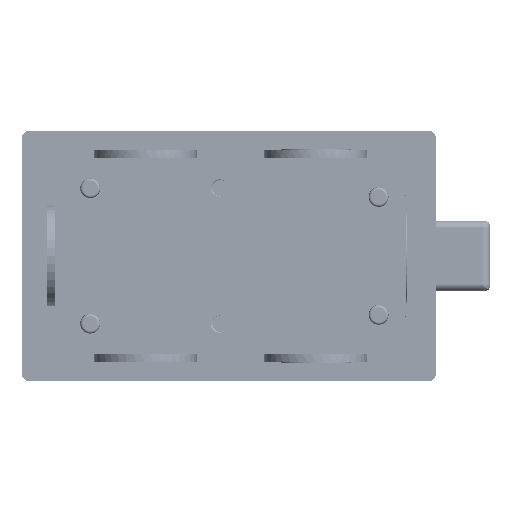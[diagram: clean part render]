
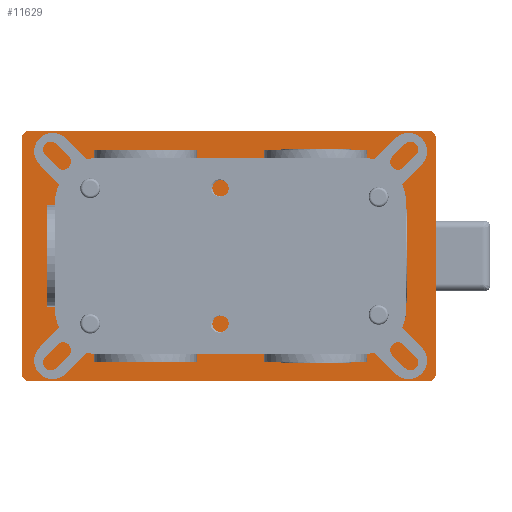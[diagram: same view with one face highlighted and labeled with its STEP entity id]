
A CAD part, front view. The second image highlights one B-rep face of the part: STEP entity #11629.
In plain terms, the highlighted planar face has unit normal (0, -1, 0) as drawn and (0, 0, 1) by its records, which use the part's own axes.
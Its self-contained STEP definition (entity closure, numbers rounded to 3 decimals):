
#2753 = CARTESIAN_POINT ( 'NONE',  ( -50., 78.183, 2. ) ) ;
#2901 = DIRECTION ( 'NONE',  ( 0., 0., 1. ) ) ;
#2945 = CARTESIAN_POINT ( 'NONE',  ( 50., -83.817, 2. ) ) ;
#3214 = CARTESIAN_POINT ( 'NONE',  ( 50., 81.183, 2. ) ) ;
#3555 = EDGE_CURVE ( 'NONE', #23483, #52671, #123051, .T. ) ;
#7489 = DIRECTION ( 'NONE',  ( 1., 0., 0. ) ) ;
#8327 = AXIS2_PLACEMENT_3D ( 'NONE', #77723, #118356, #67120 ) ;
#8695 = AXIS2_PLACEMENT_3D ( 'NONE', #38478, #89733, #58500 ) ;
#10045 = VERTEX_POINT ( 'NONE', #108606 ) ;
#11629 = ADVANCED_FACE ( 'NONE', ( #38393, #120277, #19734 ), #131559, .T. ) ;
#11991 = VERTEX_POINT ( 'NONE', #62987 ) ;
#12413 = ORIENTED_EDGE ( 'NONE', *, *, #63759, .T. ) ;
#13728 = ORIENTED_EDGE ( 'NONE', *, *, #40284, .T. ) ;
#14195 = VECTOR ( 'NONE', #90500, 1000. ) ;
#16401 = DIRECTION ( 'NONE',  ( 0., 0., 1. ) ) ;
#17866 = LINE ( 'NONE', #69790, #20993 ) ;
#18579 = DIRECTION ( 'NONE',  ( 0., 0., 1. ) ) ;
#18831 = EDGE_CURVE ( 'NONE', #89231, #24230, #52500, .T. ) ;
#19510 = CARTESIAN_POINT ( 'NONE',  ( 47., 78.183, 2. ) ) ;
#19734 = FACE_BOUND ( 'NONE', #33421, .T. ) ;
#20993 = VECTOR ( 'NONE', #79092, 1000. ) ;
#23483 = VERTEX_POINT ( 'NONE', #128816 ) ;
#24230 = VERTEX_POINT ( 'NONE', #55325 ) ;
#26133 = DIRECTION ( 'NONE',  ( 0., 0., 1. ) ) ;
#26189 = CARTESIAN_POINT ( 'NONE',  ( 47., -83.817, 2. ) ) ;
#27228 = VERTEX_POINT ( 'NONE', #55467 ) ;
#28240 = VERTEX_POINT ( 'NONE', #26189 ) ;
#33421 = EDGE_LOOP ( 'NONE', ( #130712, #71396 ) ) ;
#33740 = ORIENTED_EDGE ( 'NONE', *, *, #18831, .T. ) ;
#36962 = AXIS2_PLACEMENT_3D ( 'NONE', #68080, #26133, #7489 ) ;
#37260 = VECTOR ( 'NONE', #43839, 1000. ) ;
#37887 = ORIENTED_EDGE ( 'NONE', *, *, #99354, .F. ) ;
#38393 = FACE_BOUND ( 'NONE', #124374, .T. ) ;
#38478 = CARTESIAN_POINT ( 'NONE',  ( 47., -80.817, 2. ) ) ;
#38562 = DIRECTION ( 'NONE',  ( 1., 0., 0. ) ) ;
#38968 = EDGE_CURVE ( 'NONE', #28240, #72721, #64009, .T. ) ;
#39914 = CARTESIAN_POINT ( 'NONE',  ( 50., -83.817, 2. ) ) ;
#40284 = EDGE_CURVE ( 'NONE', #52671, #92543, #83534, .T. ) ;
#43839 = DIRECTION ( 'NONE',  ( -1., 0., 0. ) ) ;
#44083 = CARTESIAN_POINT ( 'NONE',  ( -50., -80.817, 2. ) ) ;
#45701 = ORIENTED_EDGE ( 'NONE', *, *, #3555, .T. ) ;
#46122 = DIRECTION ( 'NONE',  ( 1., 0., 0. ) ) ;
#52500 = CIRCLE ( 'NONE', #99171, 3. ) ;
#52671 = VERTEX_POINT ( 'NONE', #68460 ) ;
#52907 = DIRECTION ( 'NONE',  ( 0., 1., 0. ) ) ;
#53267 = AXIS2_PLACEMENT_3D ( 'NONE', #78988, #57752, #108988 ) ;
#54743 = DIRECTION ( 'NONE',  ( 0., 0., 1. ) ) ;
#55072 = CARTESIAN_POINT ( 'NONE',  ( -47., 78.183, 2. ) ) ;
#55325 = CARTESIAN_POINT ( 'NONE',  ( -47., -83.817, 2. ) ) ;
#55467 = CARTESIAN_POINT ( 'NONE',  ( -10.5, 32., 2. ) ) ;
#56113 = ORIENTED_EDGE ( 'NONE', *, *, #38968, .T. ) ;
#57001 = EDGE_CURVE ( 'NONE', #118608, #10045, #104012, .T. ) ;
#57752 = DIRECTION ( 'NONE',  ( 0., 0., 1. ) ) ;
#58500 = DIRECTION ( 'NONE',  ( 1., 0., 0. ) ) ;
#59244 = LINE ( 'NONE', #39914, #14195 ) ;
#60422 = CIRCLE ( 'NONE', #94389, 10.5 ) ;
#61085 = ORIENTED_EDGE ( 'NONE', *, *, #126324, .T. ) ;
#62987 = CARTESIAN_POINT ( 'NONE',  ( 10.5, 32., 2. ) ) ;
#63759 = EDGE_CURVE ( 'NONE', #92543, #89231, #17866, .T. ) ;
#64009 = CIRCLE ( 'NONE', #8695, 3. ) ;
#67120 = DIRECTION ( 'NONE',  ( 1., 0., 0. ) ) ;
#68080 = CARTESIAN_POINT ( 'NONE',  ( 0., -36., 2. ) ) ;
#68460 = CARTESIAN_POINT ( 'NONE',  ( -47., 81.183, 2. ) ) ;
#69248 = DIRECTION ( 'NONE',  ( 1., 0., 0. ) ) ;
#69790 = CARTESIAN_POINT ( 'NONE',  ( -50., -83.817, 2. ) ) ;
#71396 = ORIENTED_EDGE ( 'NONE', *, *, #57001, .F. ) ;
#72721 = VERTEX_POINT ( 'NONE', #104291 ) ;
#72972 = CIRCLE ( 'NONE', #128138, 10.5 ) ;
#74144 = LINE ( 'NONE', #2945, #101733 ) ;
#76056 = CARTESIAN_POINT ( 'NONE',  ( 0., 32., 2. ) ) ;
#77614 = DIRECTION ( 'NONE',  ( 1., 0., 0. ) ) ;
#77723 = CARTESIAN_POINT ( 'NONE',  ( 0., -36., 2. ) ) ;
#78988 = CARTESIAN_POINT ( 'NONE',  ( 0., 0., 2. ) ) ;
#79092 = DIRECTION ( 'NONE',  ( 0., -1., 0. ) ) ;
#81969 = AXIS2_PLACEMENT_3D ( 'NONE', #19510, #54743, #114648 ) ;
#83534 = CIRCLE ( 'NONE', #87695, 3. ) ;
#83914 = ORIENTED_EDGE ( 'NONE', *, *, #104541, .T. ) ;
#87695 = AXIS2_PLACEMENT_3D ( 'NONE', #55072, #16401, #77614 ) ;
#88541 = CARTESIAN_POINT ( 'NONE',  ( -47., -80.817, 2. ) ) ;
#89035 = EDGE_LOOP ( 'NONE', ( #83914, #56113, #61085, #125860, #45701, #13728, #12413, #33740 ) ) ;
#89231 = VERTEX_POINT ( 'NONE', #44083 ) ;
#89733 = DIRECTION ( 'NONE',  ( 0., 0., 1. ) ) ;
#90500 = DIRECTION ( 'NONE',  ( 1., 0., 0. ) ) ;
#91176 = DIRECTION ( 'NONE',  ( 0., 0., 1. ) ) ;
#92543 = VERTEX_POINT ( 'NONE', #2753 ) ;
#93728 = EDGE_CURVE ( 'NONE', #27228, #11991, #72972, .T. ) ;
#94389 = AXIS2_PLACEMENT_3D ( 'NONE', #100448, #18579, #38562 ) ;
#99004 = CARTESIAN_POINT ( 'NONE',  ( 21.5, -36., 2. ) ) ;
#99171 = AXIS2_PLACEMENT_3D ( 'NONE', #88541, #91176, #69248 ) ;
#99354 = EDGE_CURVE ( 'NONE', #11991, #27228, #60422, .T. ) ;
#100448 = CARTESIAN_POINT ( 'NONE',  ( 0., 32., 2. ) ) ;
#101733 = VECTOR ( 'NONE', #52907, 1000. ) ;
#101983 = EDGE_CURVE ( 'NONE', #111705, #23483, #109644, .T. ) ;
#104012 = CIRCLE ( 'NONE', #8327, 21.5 ) ;
#104291 = CARTESIAN_POINT ( 'NONE',  ( 50., -80.817, 2. ) ) ;
#104541 = EDGE_CURVE ( 'NONE', #24230, #28240, #59244, .T. ) ;
#107447 = ORIENTED_EDGE ( 'NONE', *, *, #93728, .F. ) ;
#108606 = CARTESIAN_POINT ( 'NONE',  ( -21.5, -36., 2. ) ) ;
#108988 = DIRECTION ( 'NONE',  ( 1., 0., 0. ) ) ;
#109131 = CARTESIAN_POINT ( 'NONE',  ( 50., 78.183, 2. ) ) ;
#109644 = CIRCLE ( 'NONE', #81969, 3. ) ;
#111705 = VERTEX_POINT ( 'NONE', #109131 ) ;
#114184 = EDGE_CURVE ( 'NONE', #10045, #118608, #126301, .T. ) ;
#114648 = DIRECTION ( 'NONE',  ( 1., 0., 0. ) ) ;
#118356 = DIRECTION ( 'NONE',  ( 0., 0., 1. ) ) ;
#118608 = VERTEX_POINT ( 'NONE', #99004 ) ;
#120277 = FACE_OUTER_BOUND ( 'NONE', #89035, .T. ) ;
#123051 = LINE ( 'NONE', #3214, #37260 ) ;
#124374 = EDGE_LOOP ( 'NONE', ( #107447, #37887 ) ) ;
#125860 = ORIENTED_EDGE ( 'NONE', *, *, #101983, .T. ) ;
#126301 = CIRCLE ( 'NONE', #36962, 21.5 ) ;
#126324 = EDGE_CURVE ( 'NONE', #72721, #111705, #74144, .T. ) ;
#128138 = AXIS2_PLACEMENT_3D ( 'NONE', #76056, #2901, #46122 ) ;
#128816 = CARTESIAN_POINT ( 'NONE',  ( 47., 81.183, 2. ) ) ;
#130712 = ORIENTED_EDGE ( 'NONE', *, *, #114184, .F. ) ;
#131559 = PLANE ( 'NONE',  #53267 ) ;
